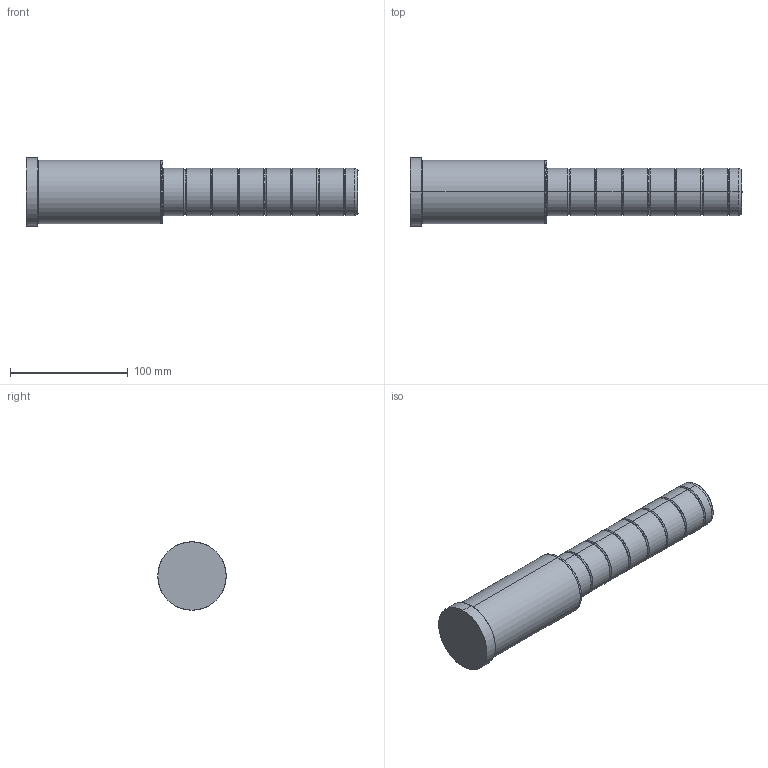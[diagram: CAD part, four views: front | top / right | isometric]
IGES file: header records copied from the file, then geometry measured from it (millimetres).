
Start section: SolidWorks IGES file using analytic representation for surfaces
Global section: file name: C:\Documents and Settings\kalite-mail\Desktop\IGS\D02\40\D02 - 40x116x166.IGS; native system: SolidWorks 2008; preprocessor: SolidWorks 2008; author: kalite-mail; date: 080617.102332; units: millimetre
Bounding box: 282 x 58 x 58 mm (x, y, z)
Surface area: 46677.1 mm2 (no closed solid volume)
Topology: 0 solids, 0 shells, 66 faces, 880 edges, 880 vertices
Faces by surface type: bspline 38, revolution 28
